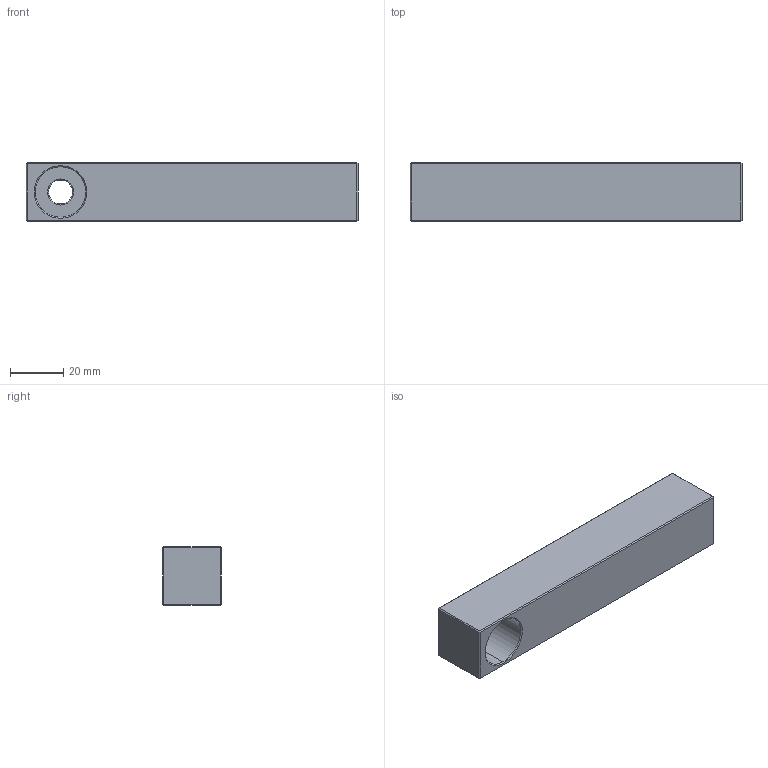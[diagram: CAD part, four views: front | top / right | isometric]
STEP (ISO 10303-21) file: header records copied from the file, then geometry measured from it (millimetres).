
FILE_DESCRIPTION (( 'STEP AP203' ), '1' );
FILE_NAME ('WHZ0400-T.step', '2010-04-21T15:42:29', ( ' ' ), ( ' ' ), 'SwSTEP 2.0', 'SolidWorks 2009', '' );
FILE_SCHEMA (( 'CONFIG_CONTROL_DESIGN' ));
Length unit declared in the file: millimetre
Products named in the file (1): WHZ0400-T
Bounding box: 125 x 22 x 22 mm (x, y, z)
Volume: 55078.8 mm3; surface area: 12842.8 mm2
Topology: 1 solids, 1 shells, 37 faces, 72 edges, 38 vertices
Faces by surface type: plane 27, cone 6, cylinder 4
Entity records: 981 total; most frequent: DIRECTION 162, CARTESIAN_POINT 148, ORIENTED_EDGE 144, EDGE_CURVE 72, VECTOR 58, LINE 58, AXIS2_PLACEMENT_3D 52, EDGE_LOOP 40
